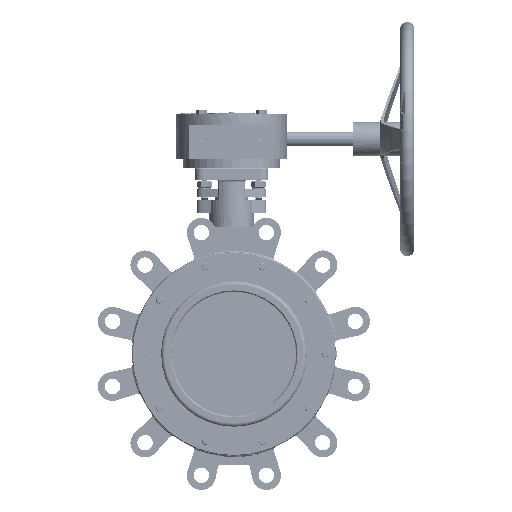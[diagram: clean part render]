
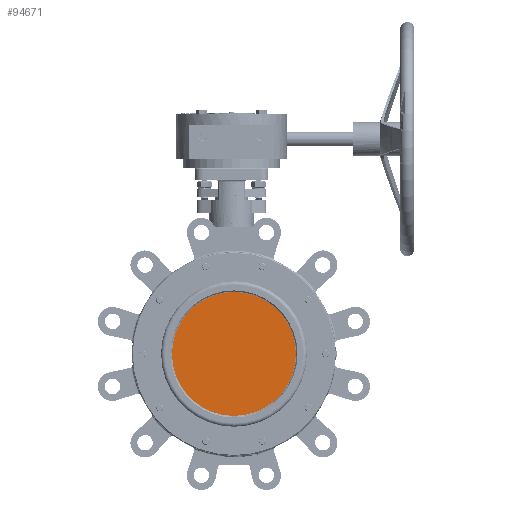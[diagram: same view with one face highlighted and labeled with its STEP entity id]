
A CAD part, front view. The second image highlights one B-rep face of the part: STEP entity #94671.
In plain terms, the highlighted planar face has unit normal (0, -1, 0).
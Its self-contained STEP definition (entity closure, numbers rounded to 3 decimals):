
#94671 = ADVANCED_FACE('',(#94672),#94685,.F.);
#94672 = FACE_BOUND('',#94673,.T.);
#94673 = EDGE_LOOP('',(#94674));
#94674 = ORIENTED_EDGE('',*,*,#94675,.F.);
#94675 = EDGE_CURVE('',#94676,#94676,#94678,.T.);
#94676 = VERTEX_POINT('',#94677);
#94677 = CARTESIAN_POINT('',(-55.206,92.319,284.049));
#94678 = SURFACE_CURVE('',#94679,(#94684,#94696),.PCURVE_S1.);
#94679 = CIRCLE('',#94680,3.152);
#94680 = AXIS2_PLACEMENT_3D('',#94681,#94682,#94683);
#94681 = CARTESIAN_POINT('',(-52.054,92.319,284.049));
#94682 = DIRECTION('',(0.,1.,0.));
#94683 = DIRECTION('',(-1.,0.,0.));
#94684 = PCURVE('',#94685,#94690);
#94685 = PLANE('',#94686);
#94686 = AXIS2_PLACEMENT_3D('',#94687,#94688,#94689);
#94687 = CARTESIAN_POINT('',(-52.054,92.319,284.049));
#94688 = DIRECTION('',(0.,1.,0.));
#94689 = DIRECTION('',(-1.,0.,0.));
#94690 = DEFINITIONAL_REPRESENTATION('',(#94691),#94695);
#94691 = CIRCLE('',#94692,3.152);
#94692 = AXIS2_PLACEMENT_2D('',#94693,#94694);
#94693 = CARTESIAN_POINT('',(0.,0.));
#94694 = DIRECTION('',(1.,0.));
#94695 = ( GEOMETRIC_REPRESENTATION_CONTEXT(2) 
PARAMETRIC_REPRESENTATION_CONTEXT() REPRESENTATION_CONTEXT('2D SPACE',''
  ) );
#94696 = PCURVE('',#94697,#94702);
#94697 = TOROIDAL_SURFACE('',#94698,3.152,0.039);
#94698 = AXIS2_PLACEMENT_3D('',#94699,#94700,#94701);
#94699 = CARTESIAN_POINT('',(-52.054,92.28,284.049));
#94700 = DIRECTION('',(0.,1.,0.));
#94701 = DIRECTION('',(-1.,0.,0.));
#94702 = DEFINITIONAL_REPRESENTATION('',(#94703),#94707);
#94703 = LINE('',#94704,#94705);
#94704 = CARTESIAN_POINT('',(0.,7.854));
#94705 = VECTOR('',#94706,1.);
#94706 = DIRECTION('',(1.,0.));
#94707 = ( GEOMETRIC_REPRESENTATION_CONTEXT(2) 
PARAMETRIC_REPRESENTATION_CONTEXT() REPRESENTATION_CONTEXT('2D SPACE',''
  ) );
